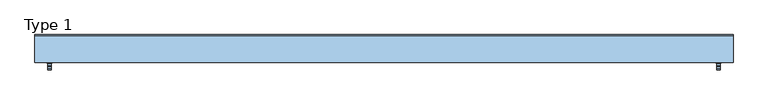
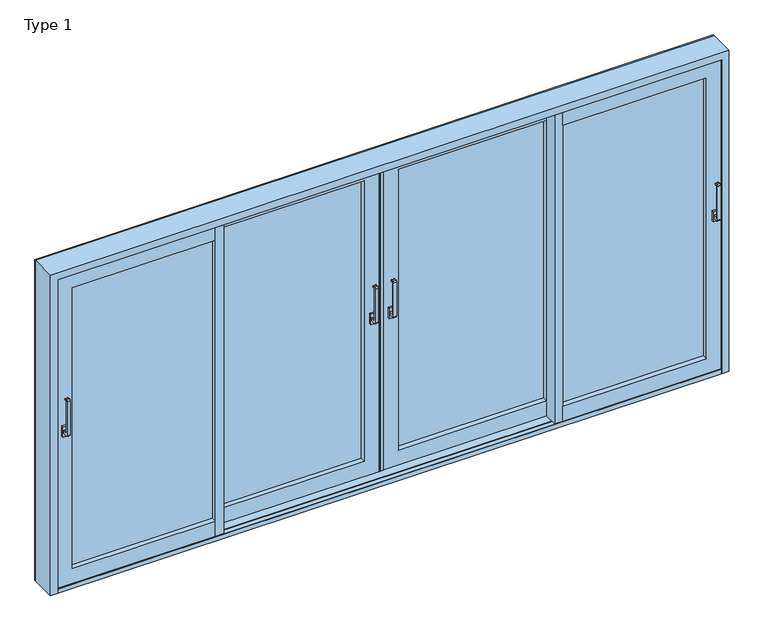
"""IFC4 building model written with IfcOpenShell, lengths in millimetres: window geometry, ETEM_ES70_Quadruple_Lift_Sliding_NI_FR : Type 1."""

from ifc_helpers import new_model, si_unit, point, frame, frame_2d, origin, place, context, project, spatial, polyline, circle_curve, trimmed, segment, composite_curve, outline, extrude, faceted_brep, source, transform, mapped, element, save


def type_1_74244e9f(model_context):
    return source(origin(), model_context, "Body", "SolidModel", [
        extrude(outline(composite_curve([segment(polyline([(-51.4992454, 1090.0), (-83.0729301, 1090.0)]), True, "CONTINUOUS"), segment(trimmed(circle_curve(frame_2d((-83.0729301, 1098.4263152)), 8.4263152), [point((-83.0729301, 1090.0))], [point((-91.4992454, 1098.4263152))], False, "CARTESIAN"), True, "CONTINUOUS"), segment(polyline([(-91.4992454, 1098.4263152), (-91.4992454, 1331.5736848)]), True, "CONTINUOUS"), segment(trimmed(circle_curve(frame_2d((-83.0729301, 1331.5736848)), 8.4263152), [point((-91.4992454, 1331.5736848))], [point((-83.0729301, 1340.0))], False, "CARTESIAN"), True, "CONTINUOUS"), segment(polyline([(-83.0729301, 1340.0), (-71.4992454, 1340.0)]), True, "CONTINUOUS"), segment(trimmed(circle_curve(frame_2d((-71.4992454, 1335.0)), 5.0), [point((-71.4992454, 1340.0))], [point((-71.4992454, 1330.0))], False, "CARTESIAN"), True, "CONTINUOUS"), segment(polyline([(-71.4992454, 1330.0), (-77.9637115, 1330.0)]), True, "CONTINUOUS"), segment(trimmed(circle_curve(frame_2d((-77.9637115, 1326.4644661)), 3.5355339), [point((-77.9637115, 1330.0))], [point((-81.4992454, 1326.4644661))], True, "CARTESIAN"), True, "CONTINUOUS"), segment(polyline([(-81.4992454, 1326.4644661), (-81.4992454, 1113.5355339)]), True, "CONTINUOUS"), segment(trimmed(circle_curve(frame_2d((-77.9637115, 1113.5355339)), 3.5355339), [point((-81.4992454, 1113.5355339))], [point((-77.9637115, 1110.0))], True, "CARTESIAN"), True, "CONTINUOUS"), segment(polyline([(-77.9637115, 1110.0), (-51.4992454, 1110.0), (-51.4992454, 1090.0)]), True, "CONTINUOUS")], self_intersect=False)), frame((2098.5, 0.0, 0.0), z_axis=(1.0, 0.0, 0.0), x_axis=(0.0, 1.0, 0.0)), (0.0, 0.0, 1.0), 20.0),
        extrude(outline(polyline([(2093.5, -51.4992454), (2093.5, -38.4992454), (2123.5, -38.4992454), (2123.5, -51.4992454), (2093.5, -51.4992454)])), frame((0.0, 0.0, 1065.0), z_axis=(0.0, 0.0, 1.0), x_axis=(1.0, 0.0, 0.0)), (0.0, 0.0, 1.0), 70.0),
        extrude(outline(composite_curve([segment(polyline([(-51.4992454, 1090.0), (-83.0729301, 1090.0)]), True, "CONTINUOUS"), segment(trimmed(circle_curve(frame_2d((-83.0729301, 1098.4263152)), 8.4263152), [point((-83.0729301, 1090.0))], [point((-91.4992454, 1098.4263152))], False, "CARTESIAN"), True, "CONTINUOUS"), segment(polyline([(-91.4992454, 1098.4263152), (-91.4992454, 1331.5736848)]), True, "CONTINUOUS"), segment(trimmed(circle_curve(frame_2d((-83.0729301, 1331.5736848)), 8.4263152), [point((-91.4992454, 1331.5736848))], [point((-83.0729301, 1340.0))], False, "CARTESIAN"), True, "CONTINUOUS"), segment(polyline([(-83.0729301, 1340.0), (-71.4992454, 1340.0)]), True, "CONTINUOUS"), segment(trimmed(circle_curve(frame_2d((-71.4992454, 1335.0)), 5.0), [point((-71.4992454, 1340.0))], [point((-71.4992454, 1330.0))], False, "CARTESIAN"), True, "CONTINUOUS"), segment(polyline([(-71.4992454, 1330.0), (-77.9637115, 1330.0)]), True, "CONTINUOUS"), segment(trimmed(circle_curve(frame_2d((-77.9637115, 1326.4644661)), 3.5355339), [point((-77.9637115, 1330.0))], [point((-81.4992454, 1326.4644661))], True, "CARTESIAN"), True, "CONTINUOUS"), segment(polyline([(-81.4992454, 1326.4644661), (-81.4992454, 1113.5355339)]), True, "CONTINUOUS"), segment(trimmed(circle_curve(frame_2d((-77.9637115, 1113.5355339)), 3.5355339), [point((-81.4992454, 1113.5355339))], [point((-77.9637115, 1110.0))], True, "CARTESIAN"), True, "CONTINUOUS"), segment(polyline([(-77.9637115, 1110.0), (-51.4992454, 1110.0), (-51.4992454, 1090.0)]), True, "CONTINUOUS")], self_intersect=False)), frame((-2118.5, 0.0, 0.0), z_axis=(1.0, 0.0, 0.0), x_axis=(0.0, 1.0, 0.0)), (0.0, 0.0, 1.0), 20.0),
        extrude(outline(polyline([(-2123.5, -51.4992454), (-2123.5, -38.4992454), (-2093.5, -38.4992454), (-2093.5, -51.4992454), (-2123.5, -51.4992454)])), frame((0.0, 0.0, 1065.0), z_axis=(0.0, 0.0, 1.0), x_axis=(1.0, 0.0, 0.0)), (0.0, 0.0, 1.0), 70.0),
        extrude(outline(composite_curve([segment(polyline([(38.5, 1090.0), (6.9263152, 1090.0)]), True, "CONTINUOUS"), segment(trimmed(circle_curve(frame_2d((6.9263152, 1098.4263152)), 8.4263152), [point((6.9263152, 1090.0))], [point((-1.5, 1098.4263152))], False, "CARTESIAN"), True, "CONTINUOUS"), segment(polyline([(-1.5, 1098.4263152), (-1.5, 1331.5736848)]), True, "CONTINUOUS"), segment(trimmed(circle_curve(frame_2d((6.9263152, 1331.5736848)), 8.4263152), [point((-1.5, 1331.5736848))], [point((6.9263152, 1340.0))], False, "CARTESIAN"), True, "CONTINUOUS"), segment(polyline([(6.9263152, 1340.0), (18.5, 1340.0)]), True, "CONTINUOUS"), segment(trimmed(circle_curve(frame_2d((18.5, 1335.0)), 5.0), [point((18.5, 1340.0))], [point((18.5, 1330.0))], False, "CARTESIAN"), True, "CONTINUOUS"), segment(polyline([(18.5, 1330.0), (12.0355339, 1330.0)]), True, "CONTINUOUS"), segment(trimmed(circle_curve(frame_2d((12.0355339, 1326.4644661)), 3.5355339), [point((12.0355339, 1330.0))], [point((8.5, 1326.4644661))], True, "CARTESIAN"), True, "CONTINUOUS"), segment(polyline([(8.5, 1326.4644661), (8.5, 1113.5355339)]), True, "CONTINUOUS"), segment(trimmed(circle_curve(frame_2d((12.0355339, 1113.5355339)), 3.5355339), [point((8.5, 1113.5355339))], [point((12.0355339, 1110.0))], True, "CARTESIAN"), True, "CONTINUOUS"), segment(polyline([(12.0355339, 1110.0), (38.5, 1110.0), (38.5, 1090.0)]), True, "CONTINUOUS")], self_intersect=False)), frame((-69.4936823, 0.0, 0.0), z_axis=(1.0, 0.0, 0.0), x_axis=(0.0, 1.0, 0.0)), (0.0, 0.0, 1.0), 20.0),
        extrude(outline(polyline([(-74.4936823, 38.5), (-74.4936823, 51.5), (-44.4936823, 51.5), (-44.4936823, 38.5), (-74.4936823, 38.5)])), frame((0.0, 0.0, 1065.0), z_axis=(0.0, 0.0, 1.0), x_axis=(1.0, 0.0, 0.0)), (0.0, 0.0, 1.0), 70.0),
        extrude(outline(composite_curve([segment(polyline([(38.5, 1090.0), (6.9263152, 1090.0)]), True, "CONTINUOUS"), segment(trimmed(circle_curve(frame_2d((6.9263152, 1098.4263152)), 8.4263152), [point((6.9263152, 1090.0))], [point((-1.5, 1098.4263152))], False, "CARTESIAN"), True, "CONTINUOUS"), segment(polyline([(-1.5, 1098.4263152), (-1.5, 1331.5736848)]), True, "CONTINUOUS"), segment(trimmed(circle_curve(frame_2d((6.9263152, 1331.5736848)), 8.4263152), [point((-1.5, 1331.5736848))], [point((6.9263152, 1340.0))], False, "CARTESIAN"), True, "CONTINUOUS"), segment(polyline([(6.9263152, 1340.0), (18.5, 1340.0)]), True, "CONTINUOUS"), segment(trimmed(circle_curve(frame_2d((18.5, 1335.0)), 5.0), [point((18.5, 1340.0))], [point((18.5, 1330.0))], False, "CARTESIAN"), True, "CONTINUOUS"), segment(polyline([(18.5, 1330.0), (12.0355339, 1330.0)]), True, "CONTINUOUS"), segment(trimmed(circle_curve(frame_2d((12.0355339, 1326.4644661)), 3.5355339), [point((12.0355339, 1330.0))], [point((8.5, 1326.4644661))], True, "CARTESIAN"), True, "CONTINUOUS"), segment(polyline([(8.5, 1326.4644661), (8.5, 1113.5355339)]), True, "CONTINUOUS"), segment(trimmed(circle_curve(frame_2d((12.0355339, 1113.5355339)), 3.5355339), [point((8.5, 1113.5355339))], [point((12.0355339, 1110.0))], True, "CARTESIAN"), True, "CONTINUOUS"), segment(polyline([(12.0355339, 1110.0), (38.5, 1110.0), (38.5, 1090.0)]), True, "CONTINUOUS")], self_intersect=False)), frame((49.4931787, 0.0, 0.0), z_axis=(1.0, 0.0, 0.0), x_axis=(0.0, 1.0, 0.0)), (0.0, 0.0, 1.0), 20.0),
        extrude(outline(polyline([(74.4931787, 38.5), (44.4931787, 38.5), (44.4931787, 51.5), (74.4931787, 51.5), (74.4931787, 38.5)])), frame((0.0, 0.0, 1065.0), z_axis=(0.0, 0.0, 1.0), x_axis=(1.0, 0.0, 0.0)), (0.0, 0.0, 1.0), 70.0),
        faceted_brep([(2200.0, -45.1, 2200.0), (2200.0, -45.1, 0.0), (2200.0, 122.9, 0.0), (2200.0, 122.9, 2200.0), (2183.7, 91.0, 2183.7), (2183.7, 122.9, 2183.7), (2183.7, 122.9, 0.0), (2183.7, 91.0, 0.0), (2160.0, 105.0, 2160.0), (2160.0, 91.0, 2160.0), (2160.0, 91.0, 0.0), (2160.0, 105.0, 0.0), (2152.0, 82.0, 2152.0), (2152.0, 105.0, 2152.0), (2152.0, 105.0, 0.0), (2152.0, 82.0, 0.0), (2183.7, 1.0, 2183.7), (2183.7, 82.0, 2183.7), (2183.7, 82.0, 0.0), (2183.7, 1.0, 0.0), (2152.0, -22.0, 2152.0), (2152.0, 1.0, 2152.0), (2152.0, 1.0, 0.0), (2152.0, -22.0, 0.0), (2160.0, -8.0, 2160.0), (2160.0, -22.0, 2160.0), (2160.0, -22.0, 0.0), (2160.0, -8.0, 0.0), (2183.7, -41.3, 2183.7), (2183.7, -8.0, 2183.7), (2183.7, -8.0, 0.0), (2183.7, -41.3, 0.0), (2152.0, -45.1, 2152.0), (2152.0, -41.3, 2152.0), (2152.0, -41.3, 0.0), (2152.0, -45.1, 0.0), (-2200.0, -45.1, 0.0), (-2200.0, -45.1, 2200.0), (-2200.0, 122.9, 2200.0), (-2200.0, 122.9, 0.0), (-2183.7, 91.0, 0.0), (-2183.7, 122.9, 0.0), (-2183.7, 122.9, 2183.7), (-2183.7, 91.0, 2183.7), (-2160.0, 105.0, 0.0), (-2160.0, 91.0, 0.0), (-2160.0, 91.0, 2160.0), (-2160.0, 105.0, 2160.0), (-2152.0, 82.0, 0.0), (-2152.0, 105.0, 0.0), (-2152.0, 105.0, 2152.0), (-2152.0, 82.0, 2152.0), (-2183.7, 1.0, 0.0), (-2183.7, 82.0, 0.0), (-2183.7, 82.0, 2183.7), (-2183.7, 1.0, 2183.7), (-2152.0, -22.0, 0.0), (-2152.0, 1.0, 0.0), (-2152.0, 1.0, 2152.0), (-2152.0, -22.0, 2152.0), (-2160.0, -8.0, 0.0), (-2160.0, -22.0, 0.0), (-2160.0, -22.0, 2160.0), (-2160.0, -8.0, 2160.0), (-2183.7, -41.3, 0.0), (-2183.7, -8.0, 0.0), (-2183.7, -8.0, 2183.7), (-2183.7, -41.3, 2183.7), (-2152.0, -45.1, 0.0), (-2152.0, -41.3, 0.0), (-2152.0, -41.3, 2152.0), (-2152.0, -45.1, 2152.0)], [[[0, 1, 2, 3]], [[4, 5, 6, 7]], [[8, 9, 10, 11]], [[12, 13, 14, 15]], [[16, 17, 18, 19]], [[20, 21, 22, 23]], [[24, 25, 26, 27]], [[28, 29, 30, 31]], [[32, 33, 34, 35]], [[36, 37, 38, 39]], [[40, 41, 42, 43]], [[44, 45, 46, 47]], [[48, 49, 50, 51]], [[52, 53, 54, 55]], [[56, 57, 58, 59]], [[60, 61, 62, 63]], [[64, 65, 66, 67]], [[68, 69, 70, 71]], [[38, 37, 0, 3]], [[43, 42, 5, 4]], [[47, 46, 9, 8]], [[51, 50, 13, 12]], [[55, 54, 17, 16]], [[59, 58, 21, 20]], [[63, 62, 25, 24]], [[67, 66, 29, 28]], [[71, 70, 33, 32]], [[36, 39, 41, 40, 45, 44, 49, 48, 53, 52, 57, 56, 61, 60, 65, 64, 69, 68]], [[41, 39, 38, 3, 2, 6, 5, 42]], [[45, 40, 43, 4, 7, 10, 9, 46]], [[49, 44, 47, 8, 11, 14, 13, 50]], [[53, 48, 51, 12, 15, 18, 17, 54]], [[57, 52, 55, 16, 19, 22, 21, 58]], [[61, 56, 59, 20, 23, 26, 25, 62]], [[65, 60, 63, 24, 27, 30, 29, 66]], [[69, 64, 67, 28, 31, 34, 33, 70]], [[36, 68, 71, 32, 35, 1, 0, 37]], [[2, 1, 35, 34, 31, 30, 27, 26, 23, 22, 19, 18, 15, 14, 11, 10, 7, 6]]]),
        faceted_brep([(1073.0, 51.5, 133.0), (1073.0, 51.5, 30.0), (1073.0, 63.9, 30.0), (1073.0, 63.9, 61.1), (1073.0, 109.1, 61.1), (1073.0, 109.1, 30.0), (1073.0, 121.5, 30.0), (1073.0, 121.5, 133.0), (110.0252518, 51.5, 133.0), (110.0252518, 51.5, 2058.0), (1073.0, 51.5, 2058.0), (1073.0, 51.5, 2161.0), (7.0252518, 51.5, 2161.0), (7.0252518, 51.5, 30.0), (7.0252518, 63.9, 30.0), (7.0252518, 63.9, 2161.0), (1073.0, 63.9, 2161.0), (1073.0, 63.9, 2129.9), (38.1252518, 63.9, 2129.9), (38.1252518, 63.9, 61.1), (38.1252518, 109.1, 61.1), (38.1252518, 109.1, 2129.9), (1073.0, 109.1, 2129.9), (1073.0, 109.1, 2161.0), (7.0252518, 109.1, 2161.0), (7.0252518, 109.1, 30.0), (7.0252518, 121.5, 30.0), (7.0252518, 121.5, 2161.0), (1073.0, 121.5, 2161.0), (1073.0, 121.5, 2058.0), (110.0252518, 121.5, 2058.0), (110.0252518, 121.5, 133.0)], [[[0, 1, 2, 3, 4, 5, 6, 7]], [[1, 0, 8, 9, 10, 11, 12, 13]], [[2, 1, 13, 14]], [[3, 2, 14, 15, 16, 17, 18, 19]], [[4, 3, 19, 20]], [[5, 4, 20, 21, 22, 23, 24, 25]], [[6, 5, 25, 26]], [[7, 6, 26, 27, 28, 29, 30, 31]], [[0, 7, 31, 8]], [[8, 31, 30, 9]], [[14, 13, 12, 15]], [[20, 19, 18, 21]], [[26, 25, 24, 27]], [[10, 29, 28, 23, 22, 17, 16, 11]], [[15, 12, 11, 16]], [[21, 18, 17, 22]], [[27, 24, 23, 28]], [[9, 30, 29, 10]]]),
        extrude(outline(polyline([(109.9252518, 113.5022684), (1073.05, 113.5022684), (1073.05, 107.5022684), (109.9252518, 107.5022684), (109.9252518, 113.5022684)])), frame((0.0, 0.0, 133.0), z_axis=(0.0, 0.0, 1.0), x_axis=(1.0, 0.0, 0.0)), (0.0, 0.0, 1.0), 1925.0),
        extrude(outline(polyline([(1127.0, 23.5007591), (2058.0, 23.5007591), (2058.0, 17.5007591), (1127.0, 17.5007591), (1127.0, 23.5007591)])), frame((0.0, 0.0, 133.0), z_axis=(0.0, 0.0, 1.0), x_axis=(1.0, 0.0, 0.0)), (0.0, 0.0, 1.0), 1925.0),
        extrude(outline(polyline([(109.9252518, 91.5022684), (1073.05, 91.5022684), (1073.05, 85.5022684), (109.9252518, 85.5022684), (109.9252518, 91.5022684)])), frame((0.0, 0.0, 133.0), z_axis=(0.0, 0.0, 1.0), x_axis=(1.0, 0.0, 0.0)), (0.0, 0.0, 1.0), 1925.0),
        extrude(outline(polyline([(1127.0, 1.5007591), (2058.0, 1.5007591), (2058.0, -4.4992409), (1127.0, -4.4992409), (1127.0, 1.5007591)])), frame((0.0, 0.0, 133.0), z_axis=(0.0, 0.0, 1.0), x_axis=(1.0, 0.0, 0.0)), (0.0, 0.0, 1.0), 1925.0),
        faceted_brep([(-1073.0, 51.5, 133.0), (-1073.0, 121.5, 133.0), (-1073.0, 121.5, 30.0), (-1073.0, 109.1, 30.0), (-1073.0, 109.1, 61.1), (-1073.0, 63.9, 61.1), (-1073.0, 63.9, 30.0), (-1073.0, 51.5, 30.0), (-110.0252518, 51.5, 133.0), (-110.0252518, 121.5, 133.0), (-1073.0, 121.5, 2058.0), (-1073.0, 121.5, 2161.0), (-7.0252518, 121.5, 2161.0), (-7.0252518, 121.5, 30.0), (-110.0252518, 121.5, 2058.0), (-7.0252518, 109.1, 30.0), (-1073.0, 109.1, 2161.0), (-1073.0, 109.1, 2129.9), (-38.1252518, 109.1, 2129.9), (-38.1252518, 109.1, 61.1), (-7.0252518, 109.1, 2161.0), (-38.1252518, 63.9, 61.1), (-1073.0, 63.9, 2129.9), (-1073.0, 63.9, 2161.0), (-7.0252518, 63.9, 2161.0), (-7.0252518, 63.9, 30.0), (-38.1252518, 63.9, 2129.9), (-7.0252518, 51.5, 30.0), (-1073.0, 51.5, 2161.0), (-1073.0, 51.5, 2058.0), (-110.0252518, 51.5, 2058.0), (-7.0252518, 51.5, 2161.0)], [[[0, 1, 2, 3, 4, 5, 6, 7]], [[8, 9, 1, 0]], [[10, 11, 12, 13, 2, 1, 9, 14]], [[13, 15, 3, 2]], [[16, 17, 18, 19, 4, 3, 15, 20]], [[19, 21, 5, 4]], [[22, 23, 24, 25, 6, 5, 21, 26]], [[25, 27, 7, 6]], [[28, 29, 30, 8, 0, 7, 27, 31]], [[24, 31, 27, 25]], [[18, 26, 21, 19]], [[12, 20, 15, 13]], [[30, 14, 9, 8]], [[29, 28, 23, 22, 17, 16, 11, 10]], [[23, 28, 31, 24]], [[17, 22, 26, 18]], [[11, 16, 20, 12]], [[29, 10, 14, 30]]]),
        extrude(outline(polyline([(-1073.05, 113.5022684), (-109.9252518, 113.5022684), (-109.9252518, 107.5022684), (-1073.05, 107.5022684), (-1073.05, 113.5022684)])), frame((0.0, 0.0, 133.0), z_axis=(0.0, 0.0, 1.0), x_axis=(1.0, 0.0, 0.0)), (0.0, 0.0, 1.0), 1925.0),
        extrude(outline(polyline([(-1073.05, 91.5022684), (-109.9252518, 91.5022684), (-109.9252518, 85.5022684), (-1073.05, 85.5022684), (-1073.05, 91.5022684)])), frame((0.0, 0.0, 133.0), z_axis=(0.0, 0.0, 1.0), x_axis=(1.0, 0.0, 0.0)), (0.0, 0.0, 1.0), 1925.0),
        extrude(outline(polyline([(-1073.0, -38.4992454), (-1127.0, -38.4992454), (-1127.0, 31.5007546), (-1081.4, 31.5007546), (-1081.4, 47.5007546), (-1073.0, 47.5007546), (-1073.0, -38.4992454)])), frame((0.0, 0.0, 30.0), z_axis=(0.0, 0.0, 1.0), x_axis=(1.0, 0.0, 0.0)), (0.0, 0.0, 1.0), 2131.0),
        extrude(outline(polyline([(-1127.0, 121.5007546), (-1073.0, 121.5007546), (-1073.0, 51.5007546), (-1118.6, 51.5007546), (-1118.6, 35.5007546), (-1127.0, 35.5007546), (-1127.0, 121.5007546)])), frame((0.0, 0.0, 30.0), z_axis=(0.0, 0.0, 1.0), x_axis=(1.0, 0.0, 0.0)), (0.0, 0.0, 1.0), 2131.0),
        extrude(outline(polyline([(-2058.0, 23.5007591), (-1127.0, 23.5007591), (-1127.0, 17.6436056), (-2058.0, 17.6436056), (-2058.0, 23.5007591)])), frame((0.0, 0.0, 132.9749999), z_axis=(0.0, 0.0, 1.0), x_axis=(1.0, 0.0, 0.0)), (0.0, 0.0, 1.0), 1925.0500002),
        extrude(outline(polyline([(-2058.0, 1.5007591), (-1127.0, 1.5007591), (-1127.0, -4.4992409), (-2058.0, -4.4992409), (-2058.0, 1.5007591)])), frame((0.0, 0.0, 132.9749999), z_axis=(0.0, 0.0, 1.0), x_axis=(1.0, 0.0, 0.0)), (0.0, 0.0, 1.0), 1925.0500002),
        extrude(outline(polyline([(7.0252518, 67.9992454), (7.0252518, 51.5), (12.3472419, 51.5), (12.3472419, 49.7022316), (-12.6492101, 49.7022316), (-12.6492101, 51.5), (-7.0252518, 51.5), (-7.0252518, 121.5), (-12.6492101, 121.5), (-12.6492101, 123.2992777), (12.3472419, 123.2992777), (12.3472419, 121.5), (7.0252518, 121.5), (7.0252518, 105.0007546), (16.0497482, 105.0007546), (16.0497482, 67.9992454), (7.0252518, 67.9992454)])), frame((0.0, 0.0, 30.0), z_axis=(0.0, 0.0, 1.0), x_axis=(1.0, 0.0, 0.0)), (0.0, 0.0, 1.0), 2130.9811707),
        extrude(outline(polyline([(0.0, -2200.0), (0.0, -2152.0), (2152.0, -2152.0), (2152.0, 2152.0), (0.0, 2152.0), (0.0, 2200.0), (2200.0, 2200.0), (2200.0, -2200.0), (0.0, -2200.0)])), frame((0.0, 122.9, 0.0), z_axis=(0.0, 1.0, 0.0), x_axis=(0.0, 0.0, 1.0)), (0.0, 0.0, 1.0), 7.1),
        faceted_brep([(1127.0, -38.4992454, 133.0), (1127.0, 31.5007546, 133.0), (1127.0, 31.5007546, 30.0), (1127.0, 19.1007546, 30.0), (1127.0, 19.1007546, 61.0749999), (1127.0, -26.0992454, 61.0749999), (1127.0, -26.0992454, 30.0), (1127.0, -38.4992454, 30.0), (2058.0, -38.4992454, 133.0), (2058.0, 31.5007546, 133.0), (1127.0, 31.5007546, 2058.0), (1127.0, 31.5007546, 2161.0), (2161.0, 31.5007546, 2161.0), (2161.0, 31.5007546, 30.0), (2058.0, 31.5007546, 2058.0), (2161.0, 19.1007546, 30.0), (1127.0, 19.1007546, 2161.0), (1127.0, 19.1007546, 2129.9250001), (2129.9250001, 19.1007546, 2129.9250001), (2129.9250001, 19.1007546, 61.0749999), (2161.0, 19.1007546, 2161.0), (2129.9250001, -26.0992454, 61.0749999), (1127.0, -26.0992454, 2129.9250001), (1127.0, -26.0992454, 2161.0), (2161.0, -26.0992454, 2161.0), (2161.0, -26.0992454, 30.0), (2129.9250001, -26.0992454, 2129.9250001), (2161.0, -38.4992454, 30.0), (1127.0, -38.4992454, 2161.0), (1127.0, -38.4992454, 2058.0), (2058.0, -38.4992454, 2058.0), (2161.0, -38.4992454, 2161.0)], [[[0, 1, 2, 3, 4, 5, 6, 7]], [[8, 9, 1, 0]], [[10, 11, 12, 13, 2, 1, 9, 14]], [[13, 15, 3, 2]], [[16, 17, 18, 19, 4, 3, 15, 20]], [[19, 21, 5, 4]], [[22, 23, 24, 25, 6, 5, 21, 26]], [[25, 27, 7, 6]], [[28, 29, 30, 8, 0, 7, 27, 31]], [[24, 31, 27, 25]], [[18, 26, 21, 19]], [[12, 20, 15, 13]], [[30, 14, 9, 8]], [[29, 28, 23, 22, 17, 16, 11, 10]], [[23, 28, 31, 24]], [[17, 22, 26, 18]], [[11, 16, 20, 12]], [[29, 10, 14, 30]]]),
        faceted_brep([(-1127.0, -38.4992454, 132.9749999), (-1127.0, -38.4992454, 30.0), (-1127.0, -26.0992454, 30.0), (-1127.0, -26.0992454, 61.0749999), (-1127.0, 19.1007546, 61.0749999), (-1127.0, 19.1007546, 30.0), (-1127.0, 31.5007546, 30.0), (-1127.0, 31.5007546, 132.9749999), (-1127.0, -38.4992454, 2058.0250001), (-1127.0, -38.4992454, 2161.0), (-2161.0, -38.4992454, 2161.0), (-2161.0, -38.4992454, 30.0), (-2058.0250001, -38.4992454, 132.9749999), (-2058.0250001, -38.4992454, 2058.0250001), (-2161.0, -26.0992454, 30.0), (-1127.0, -26.0992454, 2161.0), (-1127.0, -26.0992454, 2129.9250001), (-2129.9250001, -26.0992454, 2129.9250001), (-2129.9250001, -26.0992454, 61.0749999), (-2161.0, -26.0992454, 2161.0), (-2129.9250001, 19.1007546, 61.0749999), (-1127.0, 19.1007546, 2129.9250001), (-1127.0, 19.1007546, 2161.0), (-2161.0, 19.1007546, 2161.0), (-2161.0, 19.1007546, 30.0), (-2129.9250001, 19.1007546, 2129.9250001), (-2161.0, 31.5007546, 30.0), (-1127.0, 31.5007546, 2161.0), (-1127.0, 31.5007546, 2058.0250001), (-2058.0250001, 31.5007546, 2058.0250001), (-2058.0250001, 31.5007546, 132.9749999), (-2161.0, 31.5007546, 2161.0)], [[[0, 1, 2, 3, 4, 5, 6, 7]], [[8, 9, 10, 11, 1, 0, 12, 13]], [[11, 14, 2, 1]], [[15, 16, 17, 18, 3, 2, 14, 19]], [[18, 20, 4, 3]], [[21, 22, 23, 24, 5, 4, 20, 25]], [[24, 26, 6, 5]], [[27, 28, 29, 30, 7, 6, 26, 31]], [[30, 12, 0, 7]], [[29, 13, 12, 30]], [[23, 31, 26, 24]], [[17, 25, 20, 18]], [[10, 19, 14, 11]], [[8, 28, 27, 22, 21, 16, 15, 9]], [[28, 8, 13, 29]], [[22, 27, 31, 23]], [[16, 21, 25, 17]], [[9, 15, 19, 10]]]),
        extrude(outline(polyline([(1073.0, -38.4992454), (1073.0, 47.5007546), (1081.4, 47.5007546), (1081.4, 31.5007546), (1127.0, 31.5007546), (1127.0, -38.4992454), (1073.0, -38.4992454)])), frame((0.0, 0.0, 30.0), z_axis=(0.0, 0.0, 1.0), x_axis=(1.0, 0.0, 0.0)), (0.0, 0.0, 1.0), 2131.0),
        extrude(outline(polyline([(1127.0, 121.5007546), (1127.0, 35.5007546), (1118.6, 35.5007546), (1118.6, 51.5007546), (1073.0, 51.5007546), (1073.0, 121.5007546), (1127.0, 121.5007546)])), frame((0.0, 0.0, 30.0), z_axis=(0.0, 0.0, 1.0), x_axis=(1.0, 0.0, 0.0)), (0.0, 0.0, 1.0), 2131.0),
        faceted_brep([(-2152.0, -45.1056823, 0.0), (2152.0, -45.1056823, 0.0), (2152.0, -45.1056823, 30.0), (-2152.0, -45.1056823, 30.0), (2152.0, -41.3061158, 30.0), (-2152.0, -41.3061158, 30.0), (2152.0, -41.3061158, 25.0), (-2152.0, -41.3061158, 25.0), (2183.7, -41.3, 25.0), (2183.7, -8.0, 25.0), (2160.0, -8.0, 25.0), (2160.0, -22.0, 25.0), (2152.0, -22.0, 25.0), (2152.0, -5.9113646, 25.0), (-2152.0, -5.9113646, 25.0), (-2152.0, -22.0, 25.0), (-2160.0, -22.0, 25.0), (-2160.0, -8.0, 25.0), (-2183.7, -8.0, 25.0), (-2183.7, -41.3061158, 25.0), (2152.0, -5.9113646, 21.0), (-2152.0, -5.9113646, 21.0), (2152.0, -1.1113646, 21.0), (-2152.0, -1.1113646, 21.0), (2152.0, -1.1113646, 25.0), (-2152.0, -1.1113646, 25.0), (2152.0, 1.0, 25.0), (2183.7, 1.0, 25.0), (2183.7, 82.0, 25.0), (2152.0, 82.0, 25.0), (2152.0, 84.0886354, 25.0), (-2152.0, 84.0886354, 25.0), (-2152.0, 82.0, 25.0), (-2183.7, 82.0, 25.0), (-2183.7, 1.0, 25.0), (-2152.0, 1.0, 25.0), (2152.0, 84.0886354, 21.0), (-2152.0, 84.0886354, 21.0), (2152.0, 88.8886354, 21.0), (-2152.0, 88.8886354, 21.0), (2152.0, 88.8886354, 25.0), (-2152.0, 88.8886354, 25.0), (2152.0, 105.0, 25.0), (2160.0, 105.0, 25.0), (2160.0, 91.0, 25.0), (2183.7, 91.0, 25.0), (2183.7, 121.8886354, 25.0), (-2183.7, 121.8886354, 25.0), (-2183.7, 91.0, 25.0), (-2160.0, 91.0, 25.0), (-2160.0, 105.0, 25.0), (-2152.0, 105.0, 25.0), (2183.7, 121.8886354, 0.0), (-2183.7, 121.8886354, 0.0), (-2152.0, -41.3, 0.0), (-2183.7, -41.3, 0.0), (-2183.7, -8.0, 0.0), (-2160.0, -8.0, 0.0), (-2160.0, -22.0, 0.0), (-2152.0, -22.0, 0.0), (-2152.0, 1.0, 0.0), (-2183.7, 1.0, 0.0), (-2183.7, 82.0, 0.0), (-2152.0, 82.0, 0.0), (-2152.0, 105.0, 0.0), (-2160.0, 105.0, 0.0), (-2160.0, 91.0, 0.0), (-2183.7, 91.0, 0.0), (2183.7, 91.0, 0.0), (2160.0, 91.0, 0.0), (2160.0, 105.0, 0.0), (2152.0, 105.0, 0.0), (2152.0, 82.0, 0.0), (2183.7, 82.0, 0.0), (2183.7, 1.0, 0.0), (2152.0, 1.0, 0.0), (2152.0, -22.0, 0.0), (2160.0, -22.0, 0.0), (2160.0, -8.0, 0.0), (2183.7, -8.0, 0.0), (2183.7, -41.3, 0.0), (2152.0, -41.3, 0.0)], [[[0, 1, 2, 3]], [[3, 2, 4, 5]], [[5, 4, 6, 7]], [[7, 6, 8, 9, 10, 11, 12, 13, 14, 15, 16, 17, 18, 19]], [[14, 13, 20, 21]], [[21, 20, 22, 23]], [[23, 22, 24, 25]], [[25, 24, 26, 27, 28, 29, 30, 31, 32, 33, 34, 35]], [[31, 30, 36, 37]], [[37, 36, 38, 39]], [[39, 38, 40, 41]], [[41, 40, 42, 43, 44, 45, 46, 47, 48, 49, 50, 51]], [[47, 46, 52, 53]], [[1, 0, 54, 55, 56, 57, 58, 59, 60, 61, 62, 63, 64, 65, 66, 67, 53, 52, 68, 69, 70, 71, 72, 73, 74, 75, 76, 77, 78, 79, 80, 81]], [[7, 54, 0, 3, 5]], [[54, 7, 19, 55]], [[55, 19, 18, 56]], [[56, 18, 17, 57]], [[57, 17, 16, 58]], [[58, 16, 15, 59]], [[59, 15, 14, 21, 23, 25, 35, 60]], [[60, 35, 34, 61]], [[61, 34, 33, 62]], [[62, 33, 32, 63]], [[63, 32, 31, 37, 39, 41, 51, 64]], [[64, 51, 50, 65]], [[65, 50, 49, 66]], [[66, 49, 48, 67]], [[67, 48, 47, 53]], [[45, 68, 52, 46]], [[68, 45, 44, 69]], [[69, 44, 43, 70]], [[70, 43, 42, 71]], [[71, 42, 40, 38, 36, 30, 29, 72]], [[72, 29, 28, 73]], [[73, 28, 27, 74]], [[74, 27, 26, 75]], [[75, 26, 24, 22, 20, 13, 12, 76]], [[76, 12, 11, 77]], [[77, 11, 10, 78]], [[78, 10, 9, 79]], [[8, 80, 79, 9]], [[80, 8, 6, 81]], [[81, 6, 4, 2, 1]]]),
    ])


if __name__ == "__main__":
    model = new_model("IFC4")
    model_context = context("Model", 3, world=origin())
    ifc_project = project(units=[si_unit("LENGTHUNIT", "METRE", prefix="MILLI")], contexts=[model_context])
    site = spatial("IfcSite", under=ifc_project)
    building = spatial("IfcBuilding", under=site)
    placement = place(None, origin())
    type_1_shape = type_1_74244e9f(model_context)
    element("IfcWindow", 1, ObjectType="ETEM_ES70_Quadruple_Lift_Sliding_NI_FR : Type 1", at=placement, inside=building, context=model_context, shape_type="MappedRepresentation", body=[
        mapped(type_1_shape, transform((0.0, 0.0, 0.0), x_axis=(1.0, 0.0, 0.0), y_axis=(0.0, 1.0, 0.0), z_axis=(0.0, 0.0, 1.0))),
    ])
    save(model, "model.ifc")
